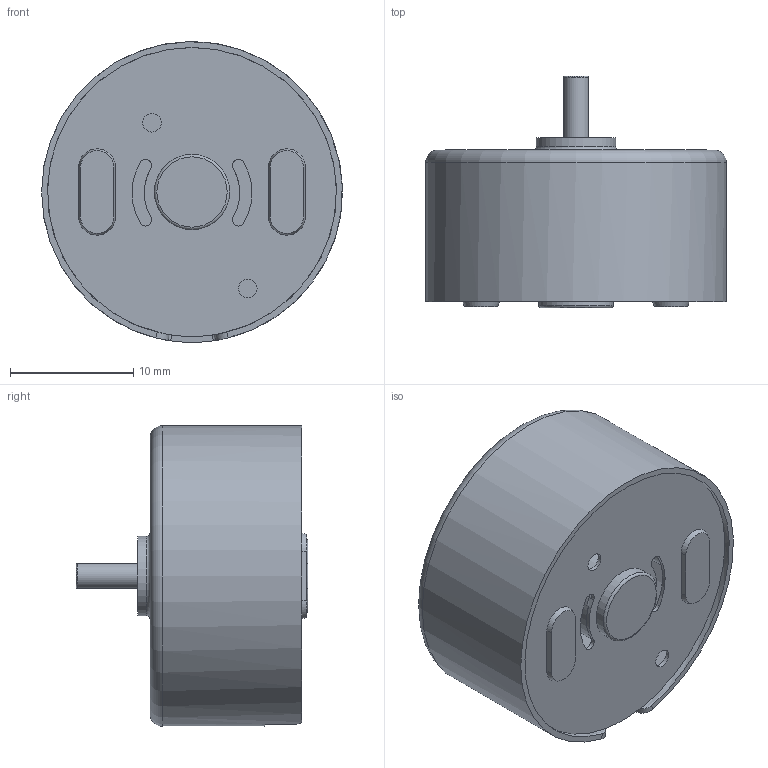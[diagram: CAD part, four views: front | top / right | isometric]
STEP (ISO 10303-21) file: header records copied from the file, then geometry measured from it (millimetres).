
FILE_DESCRIPTION(/* description */ (''),/* implementation_level */ '2;1');
FILE_NAME(/* name */ 'RF-300FA v3.step',/* time_stamp */ '2024-06-24T22:03:29+12:00',/* author */ (''),/* organization */ (''),/* preprocessor_version */ 'ST-DEVELOPER v20',/* originating_system */ 'Autodesk Translation Framework v13.14.0.145',/* authorisation */ '');
FILE_SCHEMA (('AUTOMOTIVE_DESIGN { 1 0 10303 214 3 1 1 }'));
Length unit declared in the file: millimetre
Products named in the file (1): RF-300FA
Bounding box: 24.4 x 18.8 x 24.4 mm (x, y, z)
Volume: 1782 mm3; surface area: 3930.6 mm2
Topology: 3 solids, 3 shells, 111 faces, 298 edges, 198 vertices
Faces by surface type: cylinder 67, plane 23, bspline 12, torus 5, cone 4
Full cylindrical faces by diameter (mm): 1.371 x6, 1.5 x2, 1.7 x1, 1.768 x6, 2 x1, 3.3 x1, 6.1 x2, 6.45 x1, 7.7 x1, 22.8 x1, 24.4 x1
Entity records: 6929 total; most frequent: CARTESIAN_POINT 4196, ORIENTED_EDGE 596, DIRECTION 491, EDGE_CURVE 298, AXIS2_PLACEMENT_3D 205, VERTEX_POINT 198, EDGE_LOOP 138, B_SPLINE_CURVE_WITH_KNOTS 112
